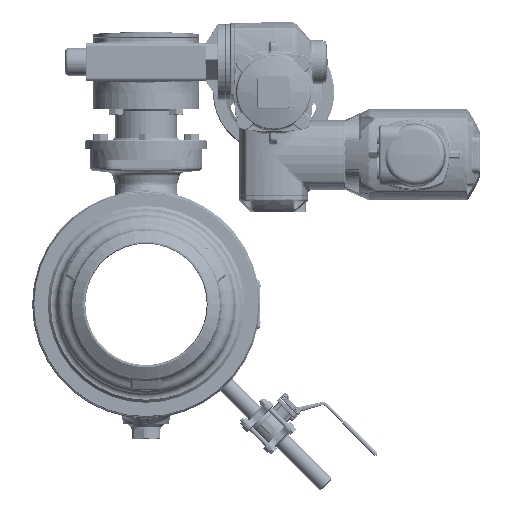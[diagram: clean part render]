
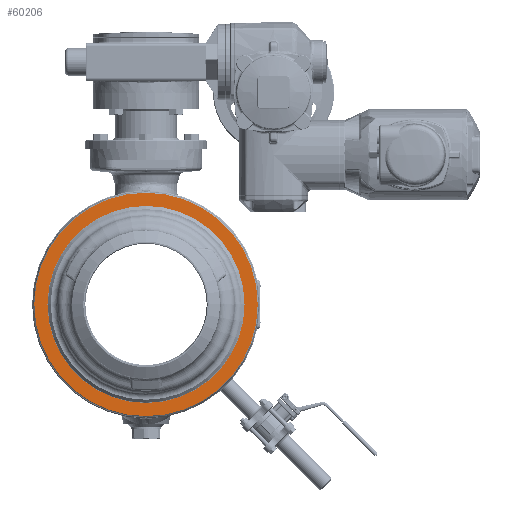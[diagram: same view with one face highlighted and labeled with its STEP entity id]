
A CAD part, left-side view. The second image highlights one B-rep face of the part: STEP entity #60206.
In plain terms, the highlighted planar face has unit normal (-1, 0, 0).
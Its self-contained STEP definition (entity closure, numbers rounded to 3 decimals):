
#14548=CARTESIAN_POINT('',(-120.5,0.,0.));
#14549=DIRECTION('',(1.,0.,0.));
#14550=DIRECTION('',(0.,0.,-1.));
#14551=AXIS2_PLACEMENT_3D('',#14548,#14549,#14550);
#14553=CARTESIAN_POINT('',(-120.5,0.,0.));
#14554=DIRECTION('',(1.,0.,0.));
#14555=DIRECTION('',(0.,0.,1.));
#14556=AXIS2_PLACEMENT_3D('',#14553,#14554,#14555);
#14558=CARTESIAN_POINT('',(-120.5,0.,0.));
#14559=DIRECTION('',(-1.,0.,0.));
#14560=DIRECTION('',(0.,0.,-1.));
#14561=AXIS2_PLACEMENT_3D('',#14558,#14559,#14560);
#14563=CARTESIAN_POINT('',(-120.5,0.,0.));
#14564=DIRECTION('',(-1.,0.,0.));
#14565=DIRECTION('',(0.,0.,1.));
#14566=AXIS2_PLACEMENT_3D('',#14563,#14564,#14565);
#36497=CARTESIAN_POINT('',(-120.5,0.,-184.));
#36498=CARTESIAN_POINT('',(-120.5,0.,184.));
#36499=VERTEX_POINT('',#36497);
#36500=VERTEX_POINT('',#36498);
#36501=CARTESIAN_POINT('',(-120.5,0.,-162.331));
#36502=CARTESIAN_POINT('',(-120.5,0.,162.331));
#36503=VERTEX_POINT('',#36501);
#36504=VERTEX_POINT('',#36502);
#60190=CARTESIAN_POINT('',(-120.5,0.,0.));
#60191=DIRECTION('',(-1.,0.,0.));
#60192=DIRECTION('',(0.,0.,1.));
#60193=AXIS2_PLACEMENT_3D('',#60190,#60191,#60192);
#60194=PLANE('',#60193);
#60196=ORIENTED_EDGE('',*,*,#60195,.T.);
#60198=ORIENTED_EDGE('',*,*,#60197,.T.);
#60199=EDGE_LOOP('',(#60196,#60198));
#60200=FACE_OUTER_BOUND('',#60199,.F.);
#60202=ORIENTED_EDGE('',*,*,#60201,.T.);
#60203=ORIENTED_EDGE('',*,*,#60180,.T.);
#60204=EDGE_LOOP('',(#60202,#60203));
#60205=FACE_BOUND('',#60204,.F.);
#60206=ADVANCED_FACE('',(#60200,#60205),#60194,.T.);
#14552=CIRCLE('',#14551,184.);
#14557=CIRCLE('',#14556,184.);
#14562=CIRCLE('',#14561,162.331);
#14567=CIRCLE('',#14566,162.331);
#60180=EDGE_CURVE('',#36504,#36503,#14567,.T.);
#60195=EDGE_CURVE('',#36499,#36500,#14552,.T.);
#60197=EDGE_CURVE('',#36500,#36499,#14557,.T.);
#60201=EDGE_CURVE('',#36503,#36504,#14562,.T.);
